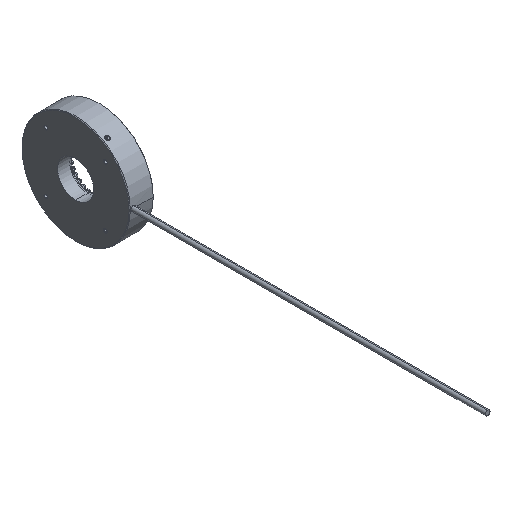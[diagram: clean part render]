
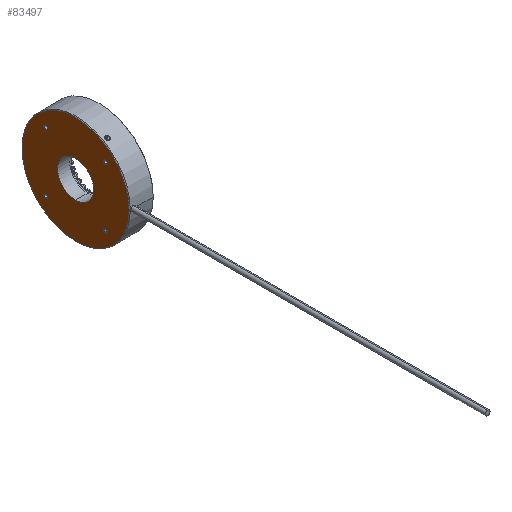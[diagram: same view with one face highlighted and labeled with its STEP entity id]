
A CAD part, isometric view. The second image highlights one B-rep face of the part: STEP entity #83497.
In plain terms, the highlighted planar face has unit normal (-1, 0, 0).
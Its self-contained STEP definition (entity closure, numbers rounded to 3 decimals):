
#1991 = FACE_BOUND ( 'NONE', #10925, .T. ) ;
#2004 = FACE_BOUND ( 'NONE', #10937, .T. ) ;
#2005 = FACE_BOUND ( 'NONE', #10887, .T. ) ;
#2006 = FACE_OUTER_BOUND ( 'NONE', #10941, .T. ) ;
#2007 = PLANE ( 'NONE',  #128549 ) ;
#2008 = FACE_BOUND ( 'NONE', #10933, .T. ) ;
#2010 = FACE_BOUND ( 'NONE', #10929, .T. ) ;
#2011 = CARTESIAN_POINT ( 'NONE',  ( -16.161, -40.2, 47.297 ) ) ;
#2012 = DIRECTION ( 'NONE',  ( 1., 0., 0. ) ) ;
#2013 = DIRECTION ( 'NONE',  ( 0., 0., -1. ) ) ;
#7364 = EDGE_CURVE ( 'NONE', #51959, #51956, #31916, .T. ) ;
#7396 = EDGE_CURVE ( 'NONE', #51972, #51973, #32076, .T. ) ;
#7404 = EDGE_CURVE ( 'NONE', #51976, #51977, #32082, .T. ) ;
#7412 = EDGE_CURVE ( 'NONE', #51980, #51981, #32088, .T. ) ;
#7421 = EDGE_CURVE ( 'NONE', #51984, #51985, #32094, .T. ) ;
#7430 = EDGE_CURVE ( 'NONE', #51988, #51989, #31936, .T. ) ;
#10887 = EDGE_LOOP ( 'NONE', ( #133937, #133938 ) ) ;
#10925 = EDGE_LOOP ( 'NONE', ( #133939, #133940 ) ) ;
#10929 = EDGE_LOOP ( 'NONE', ( #133943, #133944 ) ) ;
#10933 = EDGE_LOOP ( 'NONE', ( #133941, #133942 ) ) ;
#10937 = EDGE_LOOP ( 'NONE', ( #133945, #133946 ) ) ;
#10941 = EDGE_LOOP ( 'NONE', ( #133947, #133948 ) ) ;
#31870 = AXIS2_PLACEMENT_3D ( 'NONE', #34286, #34287, #34289 ) ;
#31916 = CIRCLE ( 'NONE', #31870, 44.5 ) ;
#31936 = CIRCLE ( 'NONE', #31938, 1.525 ) ;
#31938 = AXIS2_PLACEMENT_3D ( 'NONE', #34490, #34492, #34494 ) ;
#32076 = CIRCLE ( 'NONE', #32078, 15. ) ;
#32078 = AXIS2_PLACEMENT_3D ( 'NONE', #34393, #34395, #34397 ) ;
#32082 = CIRCLE ( 'NONE', #32084, 1.525 ) ;
#32084 = AXIS2_PLACEMENT_3D ( 'NONE', #34417, #34419, #34421 ) ;
#32088 = CIRCLE ( 'NONE', #32090, 1.525 ) ;
#32090 = AXIS2_PLACEMENT_3D ( 'NONE', #34440, #34442, #34444 ) ;
#32094 = CIRCLE ( 'NONE', #32096, 1.525 ) ;
#32096 = AXIS2_PLACEMENT_3D ( 'NONE', #34464, #34466, #34467 ) ;
#34286 = CARTESIAN_POINT ( 'NONE',  ( -16.161, 4.834, 2.263 ) ) ;
#34287 = DIRECTION ( 'NONE',  ( -1., 0., 0. ) ) ;
#34289 = DIRECTION ( 'NONE',  ( 0., 0., -1. ) ) ;
#34393 = CARTESIAN_POINT ( 'NONE',  ( -16.161, 4.834, 2.263 ) ) ;
#34395 = DIRECTION ( 'NONE',  ( -1., 0., 0. ) ) ;
#34397 = DIRECTION ( 'NONE',  ( 0., 0., 1. ) ) ;
#34417 = CARTESIAN_POINT ( 'NONE',  ( -16.161, 29.582, -22.486 ) ) ;
#34419 = DIRECTION ( 'NONE',  ( -1., 0., 0. ) ) ;
#34421 = DIRECTION ( 'NONE',  ( 0., 0., 1. ) ) ;
#34440 = CARTESIAN_POINT ( 'NONE',  ( -16.161, -19.915, -22.486 ) ) ;
#34442 = DIRECTION ( 'NONE',  ( -1., 0., 0. ) ) ;
#34444 = DIRECTION ( 'NONE',  ( 0., 0., 1. ) ) ;
#34464 = CARTESIAN_POINT ( 'NONE',  ( -16.161, -19.915, 27.011 ) ) ;
#34466 = DIRECTION ( 'NONE',  ( -1., 0., 0. ) ) ;
#34467 = DIRECTION ( 'NONE',  ( 0., 0., 1. ) ) ;
#34490 = CARTESIAN_POINT ( 'NONE',  ( -16.161, 29.582, 27.011 ) ) ;
#34492 = DIRECTION ( 'NONE',  ( -1., 0., 0. ) ) ;
#34494 = DIRECTION ( 'NONE',  ( 0., 0., 1. ) ) ;
#39899 = CARTESIAN_POINT ( 'NONE',  ( -16.161, 4.834, -42.237 ) ) ;
#39902 = CARTESIAN_POINT ( 'NONE',  ( -16.161, 4.834, 46.763 ) ) ;
#39915 = CARTESIAN_POINT ( 'NONE',  ( -16.161, 4.834, -12.737 ) ) ;
#39916 = CARTESIAN_POINT ( 'NONE',  ( -16.161, 4.834, 17.263 ) ) ;
#39919 = CARTESIAN_POINT ( 'NONE',  ( -16.161, 29.582, -24.011 ) ) ;
#39920 = CARTESIAN_POINT ( 'NONE',  ( -16.161, 29.582, -20.961 ) ) ;
#39923 = CARTESIAN_POINT ( 'NONE',  ( -16.161, -19.915, -24.011 ) ) ;
#39924 = CARTESIAN_POINT ( 'NONE',  ( -16.161, -19.915, -20.961 ) ) ;
#39927 = CARTESIAN_POINT ( 'NONE',  ( -16.161, -19.915, 25.486 ) ) ;
#39928 = CARTESIAN_POINT ( 'NONE',  ( -16.161, -19.915, 28.536 ) ) ;
#39931 = CARTESIAN_POINT ( 'NONE',  ( -16.161, 29.582, 25.486 ) ) ;
#39932 = CARTESIAN_POINT ( 'NONE',  ( -16.161, 29.582, 28.536 ) ) ;
#51956 = VERTEX_POINT ( 'NONE', #39899 ) ;
#51959 = VERTEX_POINT ( 'NONE', #39902 ) ;
#51972 = VERTEX_POINT ( 'NONE', #39915 ) ;
#51973 = VERTEX_POINT ( 'NONE', #39916 ) ;
#51976 = VERTEX_POINT ( 'NONE', #39919 ) ;
#51977 = VERTEX_POINT ( 'NONE', #39920 ) ;
#51980 = VERTEX_POINT ( 'NONE', #39923 ) ;
#51981 = VERTEX_POINT ( 'NONE', #39924 ) ;
#51984 = VERTEX_POINT ( 'NONE', #39927 ) ;
#51985 = VERTEX_POINT ( 'NONE', #39928 ) ;
#51988 = VERTEX_POINT ( 'NONE', #39931 ) ;
#51989 = VERTEX_POINT ( 'NONE', #39932 ) ;
#73583 = CIRCLE ( 'NONE', #73588, 1.525 ) ;
#73585 = CIRCLE ( 'NONE', #73592, 1.525 ) ;
#73588 = AXIS2_PLACEMENT_3D ( 'NONE', #77834, #77835, #77836 ) ;
#73590 = CIRCLE ( 'NONE', #73596, 1.525 ) ;
#73592 = AXIS2_PLACEMENT_3D ( 'NONE', #77837, #77838, #77839 ) ;
#73594 = CIRCLE ( 'NONE', #73601, 1.525 ) ;
#73596 = AXIS2_PLACEMENT_3D ( 'NONE', #77840, #77841, #77842 ) ;
#73598 = CIRCLE ( 'NONE', #73605, 15. ) ;
#73601 = AXIS2_PLACEMENT_3D ( 'NONE', #77843, #77844, #77845 ) ;
#73605 = AXIS2_PLACEMENT_3D ( 'NONE', #77846, #77847, #77848 ) ;
#73629 = CIRCLE ( 'NONE', #73635, 44.5 ) ;
#73635 = AXIS2_PLACEMENT_3D ( 'NONE', #77868, #77869, #77870 ) ;
#77834 = CARTESIAN_POINT ( 'NONE',  ( -16.161, 29.582, 27.011 ) ) ;
#77835 = DIRECTION ( 'NONE',  ( -1., 0., 0. ) ) ;
#77836 = DIRECTION ( 'NONE',  ( 0., 0., 1. ) ) ;
#77837 = CARTESIAN_POINT ( 'NONE',  ( -16.161, -19.915, 27.011 ) ) ;
#77838 = DIRECTION ( 'NONE',  ( -1., 0., 0. ) ) ;
#77839 = DIRECTION ( 'NONE',  ( 0., 0., 1. ) ) ;
#77840 = CARTESIAN_POINT ( 'NONE',  ( -16.161, -19.915, -22.486 ) ) ;
#77841 = DIRECTION ( 'NONE',  ( -1., 0., 0. ) ) ;
#77842 = DIRECTION ( 'NONE',  ( 0., 0., 1. ) ) ;
#77843 = CARTESIAN_POINT ( 'NONE',  ( -16.161, 29.582, -22.486 ) ) ;
#77844 = DIRECTION ( 'NONE',  ( -1., 0., 0. ) ) ;
#77845 = DIRECTION ( 'NONE',  ( 0., 0., 1. ) ) ;
#77846 = CARTESIAN_POINT ( 'NONE',  ( -16.161, 4.834, 2.263 ) ) ;
#77847 = DIRECTION ( 'NONE',  ( -1., 0., 0. ) ) ;
#77848 = DIRECTION ( 'NONE',  ( 0., 0., 1. ) ) ;
#77868 = CARTESIAN_POINT ( 'NONE',  ( -16.161, 4.834, 2.263 ) ) ;
#77869 = DIRECTION ( 'NONE',  ( -1., 0., 0. ) ) ;
#77870 = DIRECTION ( 'NONE',  ( 0., 0., -1. ) ) ;
#83497 = ADVANCED_FACE ( 'NONE', ( #2005, #1991, #2008, #2010, #2004, #2006 ), #2007, .F. ) ;
#108337 = EDGE_CURVE ( 'NONE', #51989, #51988, #73583, .T. ) ;
#108339 = EDGE_CURVE ( 'NONE', #51985, #51984, #73585, .T. ) ;
#108341 = EDGE_CURVE ( 'NONE', #51981, #51980, #73590, .T. ) ;
#108343 = EDGE_CURVE ( 'NONE', #51977, #51976, #73594, .T. ) ;
#108346 = EDGE_CURVE ( 'NONE', #51973, #51972, #73598, .T. ) ;
#108361 = EDGE_CURVE ( 'NONE', #51956, #51959, #73629, .T. ) ;
#128549 = AXIS2_PLACEMENT_3D ( 'NONE', #2011, #2012, #2013 ) ;
#133937 = ORIENTED_EDGE ( 'NONE', *, *, #108346, .F. ) ;
#133938 = ORIENTED_EDGE ( 'NONE', *, *, #7396, .F. ) ;
#133939 = ORIENTED_EDGE ( 'NONE', *, *, #108343, .F. ) ;
#133940 = ORIENTED_EDGE ( 'NONE', *, *, #7404, .F. ) ;
#133941 = ORIENTED_EDGE ( 'NONE', *, *, #108341, .F. ) ;
#133942 = ORIENTED_EDGE ( 'NONE', *, *, #7412, .F. ) ;
#133943 = ORIENTED_EDGE ( 'NONE', *, *, #108339, .F. ) ;
#133944 = ORIENTED_EDGE ( 'NONE', *, *, #7421, .F. ) ;
#133945 = ORIENTED_EDGE ( 'NONE', *, *, #108337, .F. ) ;
#133946 = ORIENTED_EDGE ( 'NONE', *, *, #7430, .F. ) ;
#133947 = ORIENTED_EDGE ( 'NONE', *, *, #108361, .T. ) ;
#133948 = ORIENTED_EDGE ( 'NONE', *, *, #7364, .T. ) ;
